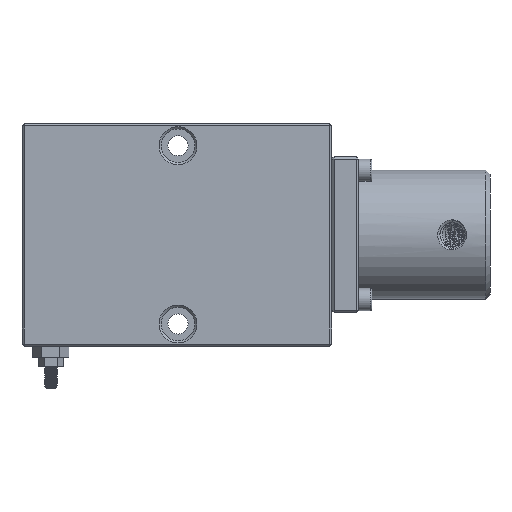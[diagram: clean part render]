
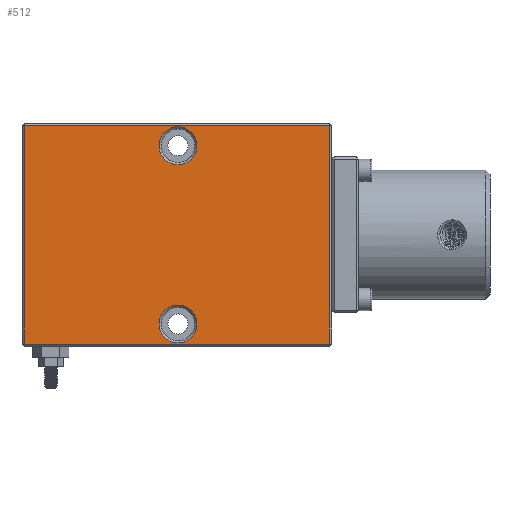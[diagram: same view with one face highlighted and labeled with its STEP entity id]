
A CAD part, front view. The second image highlights one B-rep face of the part: STEP entity #512.
In plain terms, the highlighted planar face has unit normal (0, -1, 0).
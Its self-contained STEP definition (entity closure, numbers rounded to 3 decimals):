
#512=ADVANCED_FACE('',(#925,#926,#927),#732,.T.);
#732=PLANE('',#3593);
#864=CIRCLE('',#3591,8.5);
#865=CIRCLE('',#3592,8.5);
#925=FACE_BOUND('',#1016,.T.);
#926=FACE_BOUND('',#1017,.T.);
#927=FACE_BOUND('',#1018,.T.);
#1016=EDGE_LOOP('',(#1282));
#1017=EDGE_LOOP('',(#1283));
#1018=EDGE_LOOP('',(#1284,#1285,#1286,#1287));
#1282=ORIENTED_EDGE('',*,*,#2579,.T.);
#1283=ORIENTED_EDGE('',*,*,#2580,.T.);
#1284=ORIENTED_EDGE('',*,*,#2581,.T.);
#1285=ORIENTED_EDGE('',*,*,#2582,.T.);
#1286=ORIENTED_EDGE('',*,*,#2583,.T.);
#1287=ORIENTED_EDGE('',*,*,#2584,.T.);
#2258=VERTEX_POINT('',#4616);
#2259=VERTEX_POINT('',#4618);
#2260=VERTEX_POINT('',#4620);
#2261=VERTEX_POINT('',#4621);
#2262=VERTEX_POINT('',#4623);
#2263=VERTEX_POINT('',#4625);
#2579=EDGE_CURVE('',#2258,#2258,#864,.T.);
#2580=EDGE_CURVE('',#2259,#2259,#865,.T.);
#2581=EDGE_CURVE('',#2260,#2261,#3064,.T.);
#2582=EDGE_CURVE('',#2261,#2262,#3065,.T.);
#2583=EDGE_CURVE('',#2262,#2263,#3066,.T.);
#2584=EDGE_CURVE('',#2263,#2260,#3067,.T.);
#3064=LINE('',#4619,#3327);
#3065=LINE('',#4622,#3328);
#3066=LINE('',#4624,#3329);
#3067=LINE('',#4626,#3330);
#3327=VECTOR('',#3854,1.);
#3328=VECTOR('',#3855,1.);
#3329=VECTOR('',#3856,1.);
#3330=VECTOR('',#3857,1.);
#3591=AXIS2_PLACEMENT_3D('',#4615,#3850,#3851);
#3592=AXIS2_PLACEMENT_3D('',#4617,#3852,#3853);
#3593=AXIS2_PLACEMENT_3D('',#4627,#3858,#3859);
#3850=DIRECTION('',(0.,1.,0.));
#3851=DIRECTION('',(0.,0.,-1.));
#3852=DIRECTION('',(0.,1.,0.));
#3853=DIRECTION('',(0.,0.,-1.));
#3854=DIRECTION('',(-1.,0.,0.));
#3855=DIRECTION('',(0.,0.,-1.));
#3856=DIRECTION('',(1.,0.,0.));
#3857=DIRECTION('',(0.,0.,1.));
#3858=DIRECTION('',(0.,-1.,0.));
#3859=DIRECTION('',(0.,0.,-1.));
#4615=CARTESIAN_POINT('',(70.,0.,10.));
#4616=CARTESIAN_POINT('',(70.,0.,1.5));
#4617=CARTESIAN_POINT('',(70.,0.,90.));
#4618=CARTESIAN_POINT('',(70.,0.,81.5));
#4619=CARTESIAN_POINT('',(69.5,0.,99.));
#4620=CARTESIAN_POINT('',(138.,0.,99.));
#4621=CARTESIAN_POINT('',(1.,0.,99.));
#4622=CARTESIAN_POINT('',(1.,0.,0.));
#4623=CARTESIAN_POINT('',(1.,0.,1.));
#4624=CARTESIAN_POINT('',(69.5,0.,1.));
#4625=CARTESIAN_POINT('',(138.,0.,1.));
#4626=CARTESIAN_POINT('',(138.,0.,0.));
#4627=CARTESIAN_POINT('',(69.5,0.,0.));
